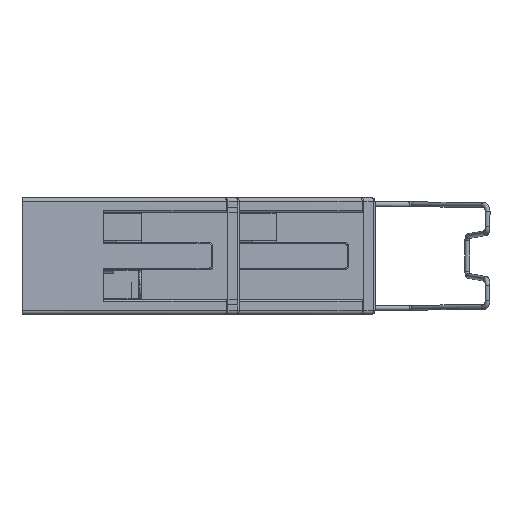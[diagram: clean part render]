
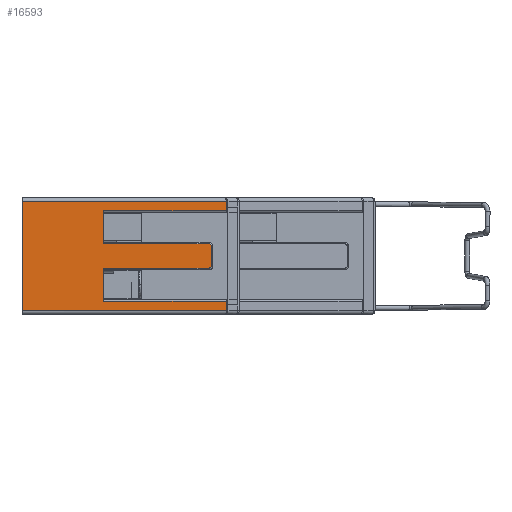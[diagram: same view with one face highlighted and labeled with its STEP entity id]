
A CAD part, left-side view. The second image highlights one B-rep face of the part: STEP entity #16593.
In plain terms, the highlighted planar face has unit normal (-1, -0.006, 0).
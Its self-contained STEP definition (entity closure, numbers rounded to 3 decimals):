
#435=B_SPLINE_CURVE_WITH_KNOTS('',3,(#28451,#28452,#28453,#28454),
 .UNSPECIFIED.,.F.,.F.,(4,4),(0.,1.),.UNSPECIFIED.);
#436=B_SPLINE_CURVE_WITH_KNOTS('',3,(#28458,#28459,#28460,#28461),
 .UNSPECIFIED.,.F.,.F.,(4,4),(0.,1.),.UNSPECIFIED.);
#1785=ORIENTED_EDGE('',*,*,#6122,.T.);
#1786=ORIENTED_EDGE('',*,*,#6123,.T.);
#1787=ORIENTED_EDGE('',*,*,#6124,.T.);
#1788=ORIENTED_EDGE('',*,*,#6125,.T.);
#1789=ORIENTED_EDGE('',*,*,#6126,.T.);
#1790=ORIENTED_EDGE('',*,*,#6127,.T.);
#1791=ORIENTED_EDGE('',*,*,#6128,.T.);
#1792=ORIENTED_EDGE('',*,*,#6129,.T.);
#1793=ORIENTED_EDGE('',*,*,#6130,.T.);
#1794=ORIENTED_EDGE('',*,*,#6120,.F.);
#1795=ORIENTED_EDGE('',*,*,#5841,.F.);
#1796=ORIENTED_EDGE('',*,*,#5884,.F.);
#1797=ORIENTED_EDGE('',*,*,#6131,.T.);
#1798=ORIENTED_EDGE('',*,*,#6132,.T.);
#5841=EDGE_CURVE('',#8536,#8537,#10448,.T.);
#5884=EDGE_CURVE('',#8562,#8536,#10467,.T.);
#6120=EDGE_CURVE('',#8537,#8727,#10634,.T.);
#6122=EDGE_CURVE('',#8728,#8729,#10635,.T.);
#6123=EDGE_CURVE('',#8729,#8730,#10636,.T.);
#6124=EDGE_CURVE('',#8730,#8731,#435,.T.);
#6125=EDGE_CURVE('',#8731,#8732,#10637,.T.);
#6126=EDGE_CURVE('',#8732,#8733,#436,.T.);
#6127=EDGE_CURVE('',#8733,#8734,#10638,.T.);
#6128=EDGE_CURVE('',#8734,#8735,#10639,.T.);
#6129=EDGE_CURVE('',#8735,#8736,#10640,.T.);
#6130=EDGE_CURVE('',#8736,#8727,#10641,.T.);
#6131=EDGE_CURVE('',#8562,#8737,#10642,.T.);
#6132=EDGE_CURVE('',#8737,#8728,#10643,.T.);
#8536=VERTEX_POINT('',#27347);
#8537=VERTEX_POINT('',#27349);
#8562=VERTEX_POINT('',#27507);
#8727=VERTEX_POINT('',#28439);
#8728=VERTEX_POINT('',#28447);
#8729=VERTEX_POINT('',#28448);
#8730=VERTEX_POINT('',#28450);
#8731=VERTEX_POINT('',#28455);
#8732=VERTEX_POINT('',#28457);
#8733=VERTEX_POINT('',#28462);
#8734=VERTEX_POINT('',#28464);
#8735=VERTEX_POINT('',#28466);
#8736=VERTEX_POINT('',#28468);
#8737=VERTEX_POINT('',#28471);
#10448=LINE('',#27348,#12465);
#10467=LINE('',#27508,#12484);
#10634=LINE('',#28438,#12651);
#10635=LINE('',#28446,#12652);
#10636=LINE('',#28449,#12653);
#10637=LINE('',#28456,#12654);
#10638=LINE('',#28463,#12655);
#10639=LINE('',#28465,#12656);
#10640=LINE('',#28467,#12657);
#10641=LINE('',#28469,#12658);
#10642=LINE('',#28470,#12659);
#10643=LINE('',#28472,#12660);
#12465=VECTOR('',#23017,1000.);
#12484=VECTOR('',#23068,1000.);
#12651=VECTOR('',#23355,1000.);
#12652=VECTOR('',#23358,1000.);
#12653=VECTOR('',#23359,1000.);
#12654=VECTOR('',#23360,1000.);
#12655=VECTOR('',#23361,1000.);
#12656=VECTOR('',#23362,1000.);
#12657=VECTOR('',#23363,1000.);
#12658=VECTOR('',#23364,1000.);
#12659=VECTOR('',#23365,1000.);
#12660=VECTOR('',#23366,1000.);
#14364=EDGE_LOOP('',(#1785,#1786,#1787,#1788,#1789,#1790,#1791,#1792,#1793,
#1794,#1795,#1796,#1797,#1798));
#15238=FACE_BOUND('',#14364,.T.);
#16052=PLANE('',#21766);
#16593=ADVANCED_FACE('',(#15238),#16052,.T.);
#21766=AXIS2_PLACEMENT_3D('',#28445,#23356,#23357);
#23017=DIRECTION('',(0.,0.,1.));
#23068=DIRECTION('',(-0.006,1.,0.));
#23355=DIRECTION('',(0.006,-1.,0.));
#23356=DIRECTION('',(-1.,-0.006,0.));
#23357=DIRECTION('',(0.006,-1.,0.));
#23358=DIRECTION('',(0.,0.,1.));
#23359=DIRECTION('',(0.006,-1.,0.));
#23360=DIRECTION('',(0.,0.,1.));
#23361=DIRECTION('',(-0.006,1.,0.));
#23362=DIRECTION('',(0.,0.,1.));
#23363=DIRECTION('',(0.006,-1.,0.));
#23364=DIRECTION('',(0.,0.,1.));
#23365=DIRECTION('',(0.,0.,1.));
#23366=DIRECTION('',(-0.006,1.,0.));
#27347=CARTESIAN_POINT('',(-22.078,96.07,-2.34));
#27348=CARTESIAN_POINT('',(-22.078,96.071,4.91));
#27349=CARTESIAN_POINT('',(-22.078,96.07,12.16));
#27507=CARTESIAN_POINT('',(-21.924,68.969,-2.34));
#27508=CARTESIAN_POINT('',(-22.001,82.52,-2.34));
#28438=CARTESIAN_POINT('',(-22.001,82.52,12.16));
#28439=CARTESIAN_POINT('',(-21.924,68.969,12.16));
#28445=CARTESIAN_POINT('',(-22.086,97.426,-3.065));
#28446=CARTESIAN_POINT('',(-22.017,85.272,1.1));
#28447=CARTESIAN_POINT('',(-22.017,85.271,-1.1));
#28448=CARTESIAN_POINT('',(-22.017,85.271,3.3));
#28449=CARTESIAN_POINT('',(-21.977,78.271,3.3));
#28450=CARTESIAN_POINT('',(-21.937,71.27,3.3));
#28451=CARTESIAN_POINT('',(-21.937,71.27,3.3));
#28452=CARTESIAN_POINT('',(-21.936,71.112,3.3));
#28453=CARTESIAN_POINT('',(-21.935,70.97,3.44));
#28454=CARTESIAN_POINT('',(-21.935,70.97,3.6));
#28455=CARTESIAN_POINT('',(-21.935,70.97,3.6));
#28456=CARTESIAN_POINT('',(-21.935,70.97,4.91));
#28457=CARTESIAN_POINT('',(-21.935,70.97,6.22));
#28458=CARTESIAN_POINT('',(-21.935,70.97,6.22));
#28459=CARTESIAN_POINT('',(-21.935,70.97,6.378));
#28460=CARTESIAN_POINT('',(-21.936,71.111,6.52));
#28461=CARTESIAN_POINT('',(-21.937,71.27,6.52));
#28462=CARTESIAN_POINT('',(-21.937,71.27,6.52));
#28463=CARTESIAN_POINT('',(-21.977,78.271,6.52));
#28464=CARTESIAN_POINT('',(-22.017,85.271,6.52));
#28465=CARTESIAN_POINT('',(-22.017,85.272,8.72));
#28466=CARTESIAN_POINT('',(-22.017,85.271,10.92));
#28467=CARTESIAN_POINT('',(-21.97,77.12,10.92));
#28468=CARTESIAN_POINT('',(-21.924,68.969,10.92));
#28469=CARTESIAN_POINT('',(-21.924,68.969,11.54));
#28470=CARTESIAN_POINT('',(-21.924,68.969,-1.72));
#28471=CARTESIAN_POINT('',(-21.924,68.969,-1.1));
#28472=CARTESIAN_POINT('',(-21.97,77.12,-1.1));
